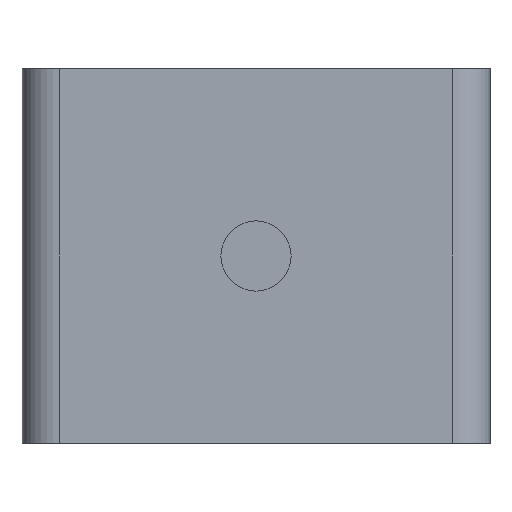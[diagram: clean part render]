
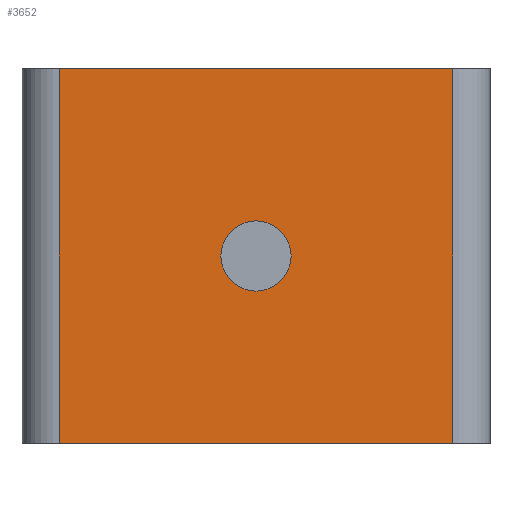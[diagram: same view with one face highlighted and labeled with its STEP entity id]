
A CAD part, front view. The second image highlights one B-rep face of the part: STEP entity #3652.
In plain terms, the highlighted planar face has unit normal (0, -1, 0).
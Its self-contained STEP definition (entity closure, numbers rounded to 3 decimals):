
#94 = DIRECTION ( 'NONE',  ( -1., 0., 0. ) ) ;
#108 = DIRECTION ( 'NONE',  ( 0., -1., 0. ) ) ;
#123 = CARTESIAN_POINT ( 'NONE',  ( 0., -22.8, -7.95 ) ) ;
#161 = ORIENTED_EDGE ( 'NONE', *, *, #1912, .F. ) ;
#205 = VERTEX_POINT ( 'NONE', #1741 ) ;
#235 = VERTEX_POINT ( 'NONE', #1505 ) ;
#258 = EDGE_LOOP ( 'NONE', ( #1688, #2548, #290, #161 ) ) ;
#290 = ORIENTED_EDGE ( 'NONE', *, *, #4072, .F. ) ;
#320 = DIRECTION ( 'NONE',  ( 0., 0., 1. ) ) ;
#343 = ORIENTED_EDGE ( 'NONE', *, *, #3893, .F. ) ;
#431 = EDGE_CURVE ( 'NONE', #3831, #1424, #1409, .T. ) ;
#541 = CARTESIAN_POINT ( 'NONE',  ( 8.4, -22.8, -15.95 ) ) ;
#668 = LINE ( 'NONE', #1177, #3145 ) ;
#741 = PLANE ( 'NONE',  #2155 ) ;
#899 = CARTESIAN_POINT ( 'NONE',  ( -8.4, -22.8, -15.95 ) ) ;
#965 = VECTOR ( 'NONE', #1909, 1000. ) ;
#1068 = LINE ( 'NONE', #1999, #965 ) ;
#1132 = EDGE_CURVE ( 'NONE', #205, #2119, #2526, .T. ) ;
#1177 = CARTESIAN_POINT ( 'NONE',  ( 0., -22.8, 0.05 ) ) ;
#1195 = DIRECTION ( 'NONE',  ( 0., -1., 0. ) ) ;
#1292 = DIRECTION ( 'NONE',  ( 1., 0., 0. ) ) ;
#1384 = DIRECTION ( 'NONE',  ( 0., 0., 1. ) ) ;
#1409 = CIRCLE ( 'NONE', #2118, 1.5 ) ;
#1424 = VERTEX_POINT ( 'NONE', #1524 ) ;
#1505 = CARTESIAN_POINT ( 'NONE',  ( -8.4, -22.8, 0.05 ) ) ;
#1524 = CARTESIAN_POINT ( 'NONE',  ( 1.5, -22.8, -7.95 ) ) ;
#1557 = FACE_BOUND ( 'NONE', #1624, .T. ) ;
#1624 = EDGE_LOOP ( 'NONE', ( #3520, #343 ) ) ;
#1638 = AXIS2_PLACEMENT_3D ( 'NONE', #3141, #1195, #3450 ) ;
#1688 = ORIENTED_EDGE ( 'NONE', *, *, #1132, .F. ) ;
#1741 = CARTESIAN_POINT ( 'NONE',  ( 8.4, -22.8, 0.05 ) ) ;
#1909 = DIRECTION ( 'NONE',  ( -1., 0., 0. ) ) ;
#1912 = EDGE_CURVE ( 'NONE', #2119, #2063, #1068, .T. ) ;
#1999 = CARTESIAN_POINT ( 'NONE',  ( 8.4, -22.8, -15.95 ) ) ;
#2017 = EDGE_CURVE ( 'NONE', #235, #205, #668, .T. ) ;
#2063 = VERTEX_POINT ( 'NONE', #899 ) ;
#2118 = AXIS2_PLACEMENT_3D ( 'NONE', #123, #108, #94 ) ;
#2119 = VERTEX_POINT ( 'NONE', #541 ) ;
#2155 = AXIS2_PLACEMENT_3D ( 'NONE', #3013, #3322, #1384 ) ;
#2306 = VECTOR ( 'NONE', #320, 1000. ) ;
#2327 = VECTOR ( 'NONE', #3665, 1000. ) ;
#2329 = FACE_OUTER_BOUND ( 'NONE', #258, .T. ) ;
#2445 = CARTESIAN_POINT ( 'NONE',  ( -1.5, -22.8, -7.95 ) ) ;
#2477 = CIRCLE ( 'NONE', #1638, 1.5 ) ;
#2526 = LINE ( 'NONE', #3620, #2327 ) ;
#2548 = ORIENTED_EDGE ( 'NONE', *, *, #2017, .F. ) ;
#2594 = CARTESIAN_POINT ( 'NONE',  ( -8.4, -22.8, -15.95 ) ) ;
#3013 = CARTESIAN_POINT ( 'NONE',  ( 8.4, -22.8, -15.95 ) ) ;
#3141 = CARTESIAN_POINT ( 'NONE',  ( 0., -22.8, -7.95 ) ) ;
#3145 = VECTOR ( 'NONE', #1292, 1000. ) ;
#3164 = LINE ( 'NONE', #2594, #2306 ) ;
#3322 = DIRECTION ( 'NONE',  ( 0., 1., 0. ) ) ;
#3450 = DIRECTION ( 'NONE',  ( -1., 0., 0. ) ) ;
#3520 = ORIENTED_EDGE ( 'NONE', *, *, #431, .F. ) ;
#3620 = CARTESIAN_POINT ( 'NONE',  ( 8.4, -22.8, -15.95 ) ) ;
#3652 = ADVANCED_FACE ( 'NONE', ( #2329, #1557 ), #741, .F. ) ;
#3665 = DIRECTION ( 'NONE',  ( 0., 0., -1. ) ) ;
#3831 = VERTEX_POINT ( 'NONE', #2445 ) ;
#3893 = EDGE_CURVE ( 'NONE', #1424, #3831, #2477, .T. ) ;
#4072 = EDGE_CURVE ( 'NONE', #2063, #235, #3164, .T. ) ;
